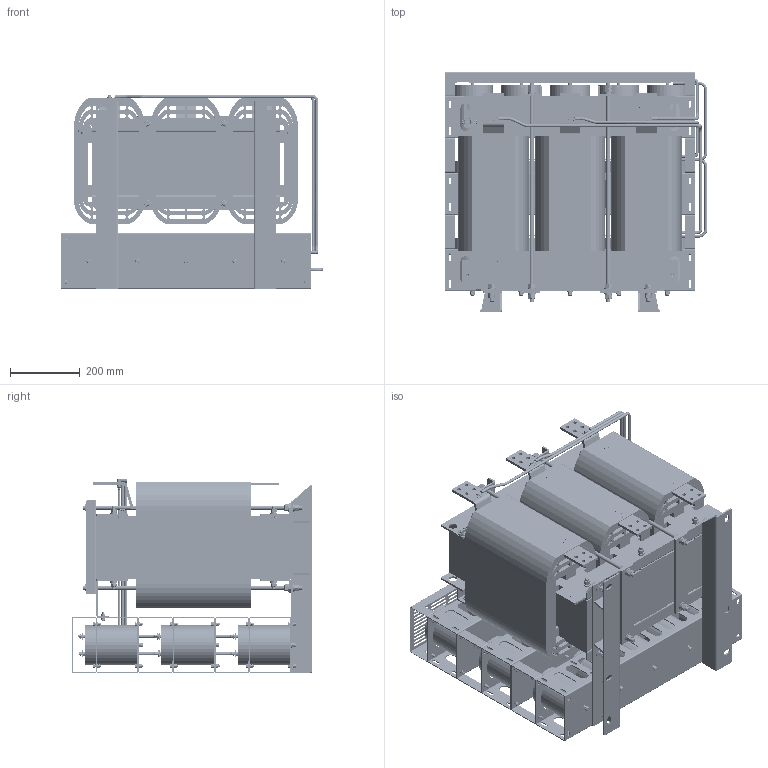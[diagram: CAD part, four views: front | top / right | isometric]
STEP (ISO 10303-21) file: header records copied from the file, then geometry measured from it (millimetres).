
FILE_DESCRIPTION(('STEP AP203'), '1');
FILE_NAME('蔓躅漤铋 耔眢耥 翳朦蝠 _ ISINOF-630_690-6', '', ('UNSPECIFIED'), ('UNSPECIFIED'), 'C3D Converter', 'C3D Toolkit', '');
FILE_SCHEMA(('CONFIG_CONTROL_DESIGN'));
Length unit declared in the file: millimetre
Products named in the file (8): ISINOF-630/690-6; SKS-SF-0660-ABЈЇ6-12.5 -РВ; ї琵X2\041E\X0\做зЧУKV223-2P; 愧X2\0410\X0\誘ХЦ-SKS-1290.601-LJ-A0; З豹X2\041F0412045804200458044E\X0\-540-100ЎБ40+6mm-SKS-1290.404-LJ-A0; 琵X2\0428\X0\崤X2\043A\X0\-3捷; L1-L2-L3-220(2.2ｱｶЈｩ; L1''-L2''-L3''-220ЈЁ2.2±¶Ј©
Assembly tree (7 placements, depth 2):
  ISINOF-630/690-6
    SKS-SF-0660-ABЈЇ6-12.5 -РВ
    ї琵X2\041E\X0\做зЧУKV223-2P
    愧X2\0410\X0\誘ХЦ-SKS-1290.601-LJ-A0
    З豹X2\041F0412045804200458044E\X0\-540-100ЎБ40+6mm-SKS-1290.404-LJ-A0
    琵X2\0428\X0\崤X2\043A\X0\-3捷
    L1-L2-L3-220(2.2ｱｶЈｩ
    L1''-L2''-L3''-220ЈЁ2.2±¶Ј©
Bounding box: 754.75 x 689.99 x 557.51 mm (x, y, z)
Volume: 108334035 mm3; surface area: 13925605.6 mm2
Topology: 577 solids, 578 shells, 7562 faces, 17620 edges, 11401 vertices
Faces by surface type: plane 4324, cylinder 2127, cone 925, bspline 140, torus 46
Full cylindrical faces by diameter (mm): 3 x4, 3.8 x2, 4 x4, 5 x36, 5.053 x27, 6 x79, 6.45 x27, 6.5 x95, 6.737 x15, 7 x3, 8 x6, 8.422 x12, 8.5 x31, 8.667 x15, 9.55 x27, 10 x42, 10.106 x20, 10.75 x12, 10.833 x24, 11 x28, 12 x145, 12.9 x12, 13 x35, 14 x4, 15.917 x12, 16 x18, 19.1 x12, 20 x24, 24 x20, 25 x4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
Entity records: 375370 total; most frequent: CARTESIAN_POINT 141406, DIRECTION 34041, ORIENTED_EDGE 32622, EDGE_CURVE 16312, AXIS2_PLACEMENT_3D 13036, VERTEX_POINT 11401, EDGE_LOOP 10360, FACE_BOUND 8426
